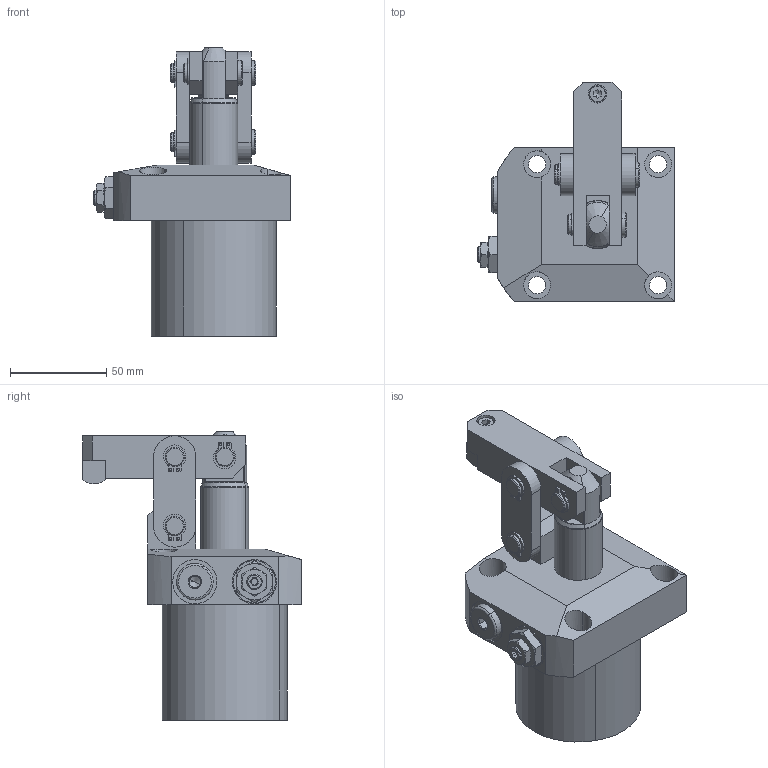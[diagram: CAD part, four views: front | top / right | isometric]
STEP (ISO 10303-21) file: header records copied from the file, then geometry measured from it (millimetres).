
FILE_DESCRIPTION(('CATIA V5 STEP Exchange'),'2;1');
FILE_NAME('\\Kjf-102\KJF_TC\Hydraulic_Clamp\Standard\HINGE_CLAMP\HGC-4004\배포도면\HGC-4005G-LH_-.stp','2026-04-27T06:15:19+00:00',('none'),('none'),'CATIA Version 5 Release 19 SP 9 (IN-10)','CATIA V5 STEP AP203','none');
FILE_SCHEMA(('CONFIG_CONTROL_DESIGN'));
Length unit declared in the file: millimetre
Products named in the file (2): HGC-4005GV-LH_-; FCV-0014
Assembly tree (20 placements, depth 3):
  HGC-4005GV-LH_-
    #58
    #2347
    #2946
    #3349
    #4170  x2
    #4490
    #4755
    #5224  x2
    #5708
    #6600  x3
    FCV-0014
      #7268
      #8457
      #9165
      #9334
    #10071
Bounding box: 102.5 x 114 x 150 mm (x, y, z)
Volume: 423499.1 mm3; surface area: 96910 mm2
Topology: 19 solids, 19 shells, 484 faces, 1124 edges, 709 vertices
Faces by surface type: cylinder 205, plane 177, cone 87, torus 15
Entity records: 11411 total; most frequent: CARTESIAN_POINT 2381, ORIENTED_EDGE 1884, DIRECTION 1486, EDGE_CURVE 942, AXIS2_PLACEMENT_3D 748, VERTEX_POINT 597, EDGE_LOOP 493, CIRCLE 435
